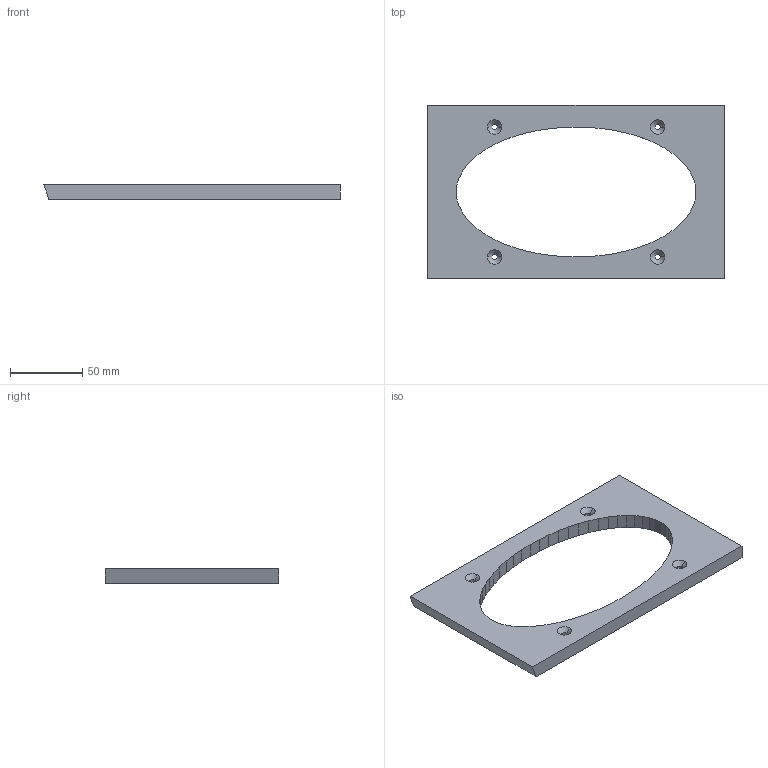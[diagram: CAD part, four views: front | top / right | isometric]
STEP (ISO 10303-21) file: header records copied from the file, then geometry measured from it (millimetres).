
FILE_DESCRIPTION(('STEP AP214'),'1');
FILE_NAME('tmp0.step','2025-05-02T19:32:54',(' '),(' '),'Spatial InterOp 3D',' ',' ');
FILE_SCHEMA(('AUTOMOTIVE_DESIGN { 1 0 10303 214 1 1 1 1 }'));
Length unit declared in the file: millimetre
Products named in the file (1): 1
Bounding box: 205.21 x 120 x 10 mm (x, y, z)
Volume: 126016.2 mm3; surface area: 36384 mm2
Topology: 1 solids, 1 shells, 91 faces, 251 edges, 162 vertices
Faces by surface type: plane 67, cone 16, cylinder 8
Entity records: 2894 total; most frequent: CARTESIAN_POINT 505, ORIENTED_EDGE 502, DIRECTION 467, EDGE_CURVE 251, LINE 219, VECTOR 219, VERTEX_POINT 162, AXIS2_PLACEMENT_3D 124
